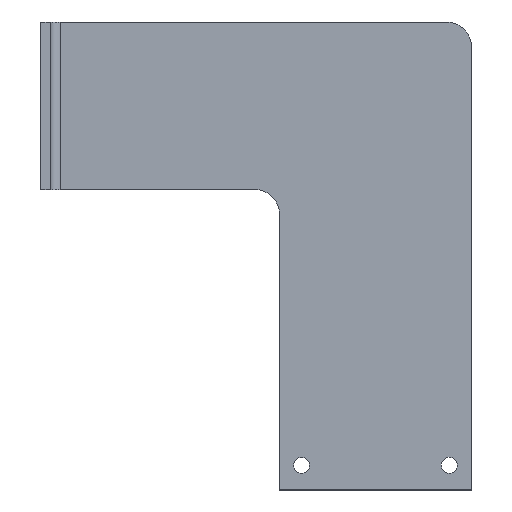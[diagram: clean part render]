
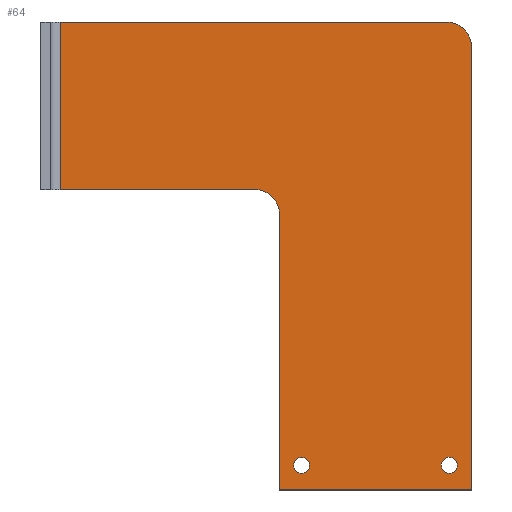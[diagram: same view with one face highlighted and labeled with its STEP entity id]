
A CAD part, top view. The second image highlights one B-rep face of the part: STEP entity #64.
In plain terms, the highlighted planar face has unit normal (0, 0, 1).
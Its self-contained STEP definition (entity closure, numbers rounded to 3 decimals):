
#64=ADVANCED_FACE('',(#170,#172,#174),#176,.T.);
#170=FACE_BOUND('',#171,.T.);
#171=EDGE_LOOP('',(#302));
#172=FACE_BOUND('',#173,.T.);
#173=EDGE_LOOP('',(#303));
#174=FACE_OUTER_BOUND('',#175,.T.);
#175=EDGE_LOOP('',(#304,#305,#306,#307,#308,#309,#310,#311));
#176=PLANE('',#177);
#177=AXIS2_PLACEMENT_3D('',#178,#179,#180);
#178=CARTESIAN_POINT('',(0.,0.,0.));
#179=DIRECTION('',(0.,0.,1.));
#180=DIRECTION('',(1.,0.,0.));
#302=ORIENTED_EDGE('',*,*,#383,.T.);
#303=ORIENTED_EDGE('',*,*,#384,.T.);
#304=ORIENTED_EDGE('',*,*,#385,.F.);
#305=ORIENTED_EDGE('',*,*,#386,.T.);
#306=ORIENTED_EDGE('',*,*,#387,.T.);
#307=ORIENTED_EDGE('',*,*,#388,.T.);
#308=ORIENTED_EDGE('',*,*,#389,.F.);
#309=ORIENTED_EDGE('',*,*,#390,.T.);
#310=ORIENTED_EDGE('',*,*,#370,.T.);
#311=ORIENTED_EDGE('',*,*,#391,.T.);
#370=EDGE_CURVE('',#437,#435,#438,.T.);
#383=EDGE_CURVE('',#459,#459,#460,.F.);
#384=EDGE_CURVE('',#461,#461,#462,.F.);
#385=EDGE_CURVE('',#463,#464,#465,.T.);
#386=EDGE_CURVE('',#463,#466,#467,.T.);
#387=EDGE_CURVE('',#466,#468,#469,.T.);
#388=EDGE_CURVE('',#468,#470,#471,.T.);
#389=EDGE_CURVE('',#472,#470,#473,.T.);
#390=EDGE_CURVE('',#472,#437,#474,.T.);
#391=EDGE_CURVE('',#435,#464,#475,.T.);
#435=VERTEX_POINT('',#567);
#437=VERTEX_POINT('',#572);
#438=LINE('',#573,#574);
#459=VERTEX_POINT('',#625);
#460=CIRCLE('',#626,3.25);
#461=VERTEX_POINT('',#630);
#462=CIRCLE('',#631,3.25);
#463=VERTEX_POINT('',#635);
#464=VERTEX_POINT('',#636);
#465=CIRCLE('',#637,10.);
#466=VERTEX_POINT('',#641);
#467=LINE('',#642,#643);
#468=VERTEX_POINT('',#645);
#469=LINE('',#646,#647);
#470=VERTEX_POINT('',#649);
#471=LINE('',#650,#651);
#472=VERTEX_POINT('',#653);
#473=CIRCLE('',#654,10.);
#474=LINE('',#658,#659);
#475=LINE('',#661,#662);
#567=CARTESIAN_POINT('',(-128.,122.,0.));
#572=CARTESIAN_POINT('',(-128.,190.,0.));
#573=CARTESIAN_POINT('',(-128.,190.,0.));
#574=VECTOR('',#575,1.);
#575=DIRECTION('',(0.,-1.,0.));
#625=CARTESIAN_POINT('',(33.25,10.,0.));
#626=AXIS2_PLACEMENT_3D('',#627,#628,#629);
#627=CARTESIAN_POINT('',(30.,10.,0.));
#628=DIRECTION('',(0.,0.,1.));
#629=DIRECTION('',(1.,0.,0.));
#630=CARTESIAN_POINT('',(-26.75,10.,0.));
#631=AXIS2_PLACEMENT_3D('',#632,#633,#634);
#632=CARTESIAN_POINT('',(-30.,10.,0.));
#633=DIRECTION('',(0.,0.,1.));
#634=DIRECTION('',(1.,0.,0.));
#635=CARTESIAN_POINT('',(-39.,112.,0.));
#636=CARTESIAN_POINT('',(-49.,122.,0.));
#637=AXIS2_PLACEMENT_3D('',#638,#639,#640);
#638=CARTESIAN_POINT('',(-49.,112.,0.));
#639=DIRECTION('',(0.,0.,1.));
#640=DIRECTION('',(1.,0.,0.));
#641=CARTESIAN_POINT('',(-39.,0.,0.));
#642=CARTESIAN_POINT('',(-39.,112.,0.));
#643=VECTOR('',#644,1.);
#644=DIRECTION('',(0.,-1.,0.));
#645=CARTESIAN_POINT('',(39.,0.,0.));
#646=CARTESIAN_POINT('',(-39.,0.,0.));
#647=VECTOR('',#648,1.);
#648=DIRECTION('',(1.,0.,0.));
#649=CARTESIAN_POINT('',(39.,180.,0.));
#650=CARTESIAN_POINT('',(39.,0.,0.));
#651=VECTOR('',#652,1.);
#652=DIRECTION('',(0.,1.,0.));
#653=CARTESIAN_POINT('',(29.,190.,0.));
#654=AXIS2_PLACEMENT_3D('',#655,#656,#657);
#655=CARTESIAN_POINT('',(29.,180.,0.));
#656=DIRECTION('',(0.,0.,-1.));
#657=DIRECTION('',(0.,1.,0.));
#658=CARTESIAN_POINT('',(29.,190.,0.));
#659=VECTOR('',#660,1.);
#660=DIRECTION('',(-1.,0.,0.));
#661=CARTESIAN_POINT('',(-128.,122.,0.));
#662=VECTOR('',#663,1.);
#663=DIRECTION('',(1.,0.,0.));
